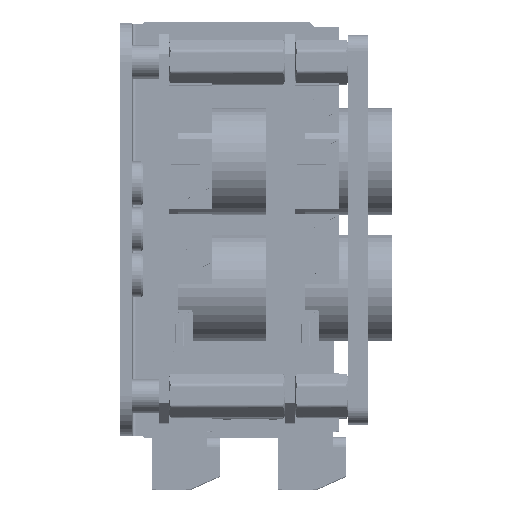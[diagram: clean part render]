
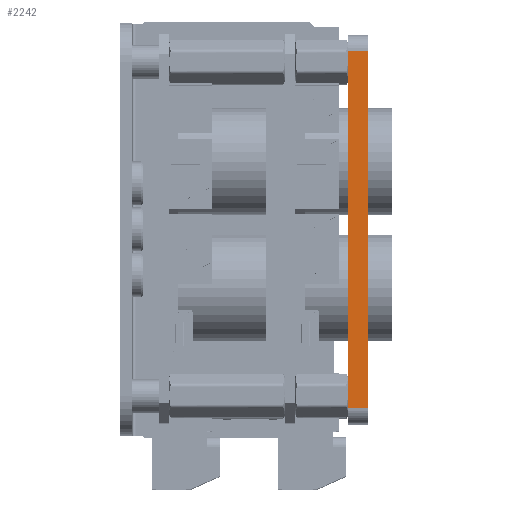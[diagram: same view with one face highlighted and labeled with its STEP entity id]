
A CAD part, top view. The second image highlights one B-rep face of the part: STEP entity #2242.
In plain terms, the highlighted planar face has unit normal (0, 0, 1).
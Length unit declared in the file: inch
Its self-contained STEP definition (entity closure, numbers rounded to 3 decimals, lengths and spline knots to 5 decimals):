
#2242 = ADVANCED_FACE ( 'NONE', ( #106237 ), #97957, .F. ) ;
#5731 = LINE ( 'NONE', #55951, #82904 ) ;
#8877 = DIRECTION ( 'NONE',  ( -1., 0., 0. ) ) ;
#9841 = CARTESIAN_POINT ( 'NONE',  ( -1.15, 0., 2.3 ) ) ;
#10772 = DIRECTION ( 'NONE',  ( 0., 0., -1. ) ) ;
#23727 = EDGE_CURVE ( 'NONE', #81034, #61436, #117326, .T. ) ;
#26534 = ORIENTED_EDGE ( 'NONE', *, *, #46467, .T. ) ;
#30053 = CARTESIAN_POINT ( 'NONE',  ( -1.15, -0.125, 2.3 ) ) ;
#35996 = DIRECTION ( 'NONE',  ( 0., 1., 0. ) ) ;
#43202 = VECTOR ( 'NONE', #93359, 39.37008 ) ;
#46467 = EDGE_CURVE ( 'NONE', #91008, #70419, #5731, .T. ) ;
#53651 = EDGE_LOOP ( 'NONE', ( #56359, #99035, #26534, #61136 ) ) ;
#55951 = CARTESIAN_POINT ( 'NONE',  ( -1.25, -0.125, 2.3 ) ) ;
#56359 = ORIENTED_EDGE ( 'NONE', *, *, #23727, .F. ) ;
#57938 = CARTESIAN_POINT ( 'NONE',  ( -1.15, 0., 2.3 ) ) ;
#58725 = VECTOR ( 'NONE', #115244, 39.37008 ) ;
#61136 = ORIENTED_EDGE ( 'NONE', *, *, #65317, .T. ) ;
#61436 = VERTEX_POINT ( 'NONE', #88313 ) ;
#63209 = AXIS2_PLACEMENT_3D ( 'NONE', #78213, #10772, #8877 ) ;
#64082 = CARTESIAN_POINT ( 'NONE',  ( -1.25, 0., 2.3 ) ) ;
#65317 = EDGE_CURVE ( 'NONE', #70419, #61436, #66508, .T. ) ;
#66508 = LINE ( 'NONE', #115498, #79667 ) ;
#70419 = VERTEX_POINT ( 'NONE', #78306 ) ;
#78213 = CARTESIAN_POINT ( 'NONE',  ( -1.25, 0., 2.3 ) ) ;
#78306 = CARTESIAN_POINT ( 'NONE',  ( 1.15, -0.125, 2.3 ) ) ;
#79667 = VECTOR ( 'NONE', #35996, 39.37008 ) ;
#81034 = VERTEX_POINT ( 'NONE', #9841 ) ;
#82904 = VECTOR ( 'NONE', #84610, 39.37008 ) ;
#84610 = DIRECTION ( 'NONE',  ( 1., 0., 0. ) ) ;
#88313 = CARTESIAN_POINT ( 'NONE',  ( 1.15, 0., 2.3 ) ) ;
#91008 = VERTEX_POINT ( 'NONE', #30053 ) ;
#92131 = EDGE_CURVE ( 'NONE', #81034, #91008, #104419, .T. ) ;
#93359 = DIRECTION ( 'NONE',  ( 1., 0., 0. ) ) ;
#97957 = PLANE ( 'NONE',  #63209 ) ;
#99035 = ORIENTED_EDGE ( 'NONE', *, *, #92131, .T. ) ;
#104419 = LINE ( 'NONE', #57938, #58725 ) ;
#106237 = FACE_OUTER_BOUND ( 'NONE', #53651, .T. ) ;
#115244 = DIRECTION ( 'NONE',  ( 0., -1., 0. ) ) ;
#115498 = CARTESIAN_POINT ( 'NONE',  ( 1.15, 0., 2.3 ) ) ;
#117326 = LINE ( 'NONE', #64082, #43202 ) ;
